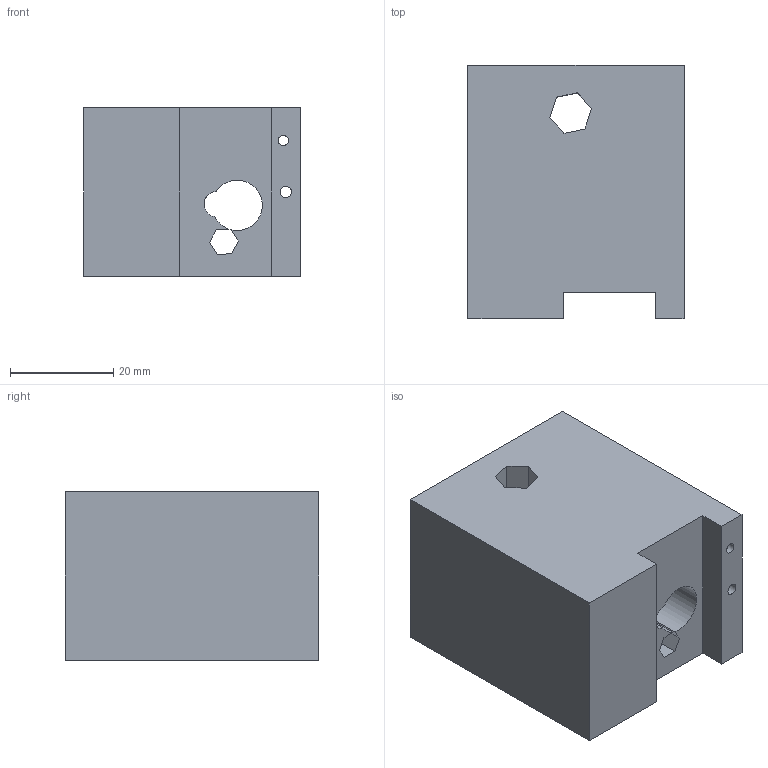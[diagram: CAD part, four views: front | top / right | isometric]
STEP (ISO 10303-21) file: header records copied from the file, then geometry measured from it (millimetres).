
FILE_DESCRIPTION(('Open CASCADE Model'),'2;1');
FILE_NAME('Open CASCADE Shape Model','2021-05-04T11:46:24',('Author'),( 'Open CASCADE'),'Open CASCADE STEP processor 7.4','Open CASCADE 7.4' ,'Unknown');
FILE_SCHEMA(('AUTOMOTIVE_DESIGN { 1 0 10303 214 1 1 1 1 }'));
Length unit declared in the file: millimetre
Products named in the file (1): Open CASCADE STEP translator 7.4 371
Bounding box: 41.86 x 49.1 x 32.67 mm (x, y, z)
Volume: 55802 mm3; surface area: 13456.4 mm2
Topology: 1 solids, 1 shells, 34 faces, 102 edges, 68 vertices
Faces by surface type: plane 26, cylinder 8
Full cylindrical faces by diameter (mm): 2 x1, 2.194 x2
Entity records: 2511 total; most frequent: CARTESIAN_POINT 525, DIRECTION 345, LINE 224, VECTOR 224, ORIENTED_EDGE 204, PCURVE 204, DEFINITIONAL_REPRESENTATION 204, EDGE_CURVE 102
